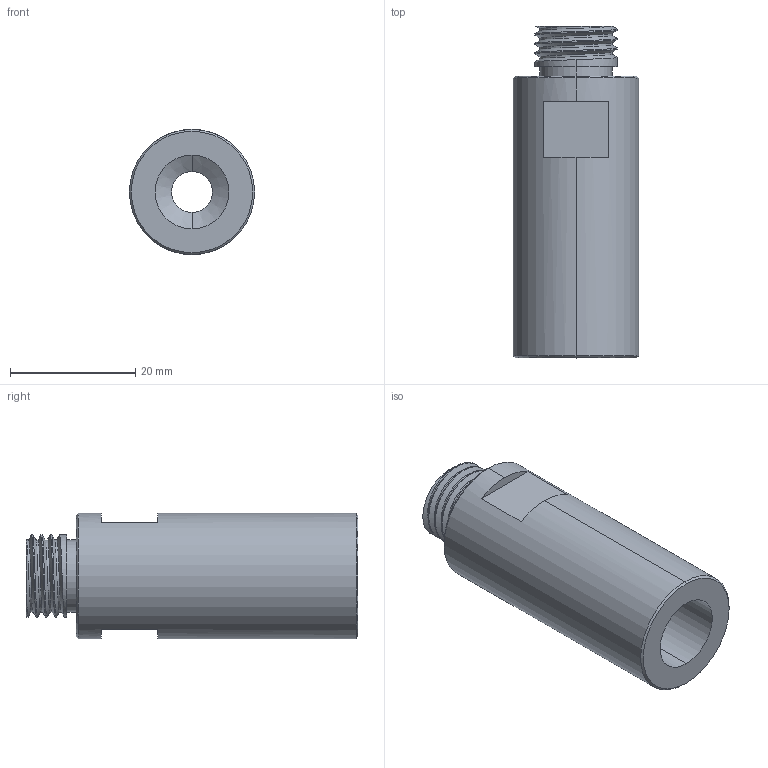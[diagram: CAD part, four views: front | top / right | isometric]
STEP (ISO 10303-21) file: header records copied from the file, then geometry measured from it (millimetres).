
FILE_DESCRIPTION (( 'STEP AP203' ), '1' );
FILE_NAME ('SMBY2053G14改斜槽.STEP', '2024-01-25T05:30:42', ( '微软用户' ), ( '微软中国' ), 'SwSTEP 2.0', 'SolidWorks 2018', '' );
FILE_SCHEMA (( 'CONFIG_CONTROL_DESIGN' ));
Length unit declared in the file: millimetre
Products named in the file (1): SMBY2053G14蜊訇羞
Bounding box: 20 x 53 x 20 mm (x, y, z)
Volume: 10307.5 mm3; surface area: 5607.5 mm2
Topology: 1 solids, 1 shells, 45 faces, 106 edges, 66 vertices
Faces by surface type: cylinder 18, plane 12, cone 8, torus 4, bspline 3
Entity records: 2265 total; most frequent: CARTESIAN_POINT 1196, ORIENTED_EDGE 212, DIRECTION 209, EDGE_CURVE 106, AXIS2_PLACEMENT_3D 87, VERTEX_POINT 66, EDGE_LOOP 50, ADVANCED_FACE 45
